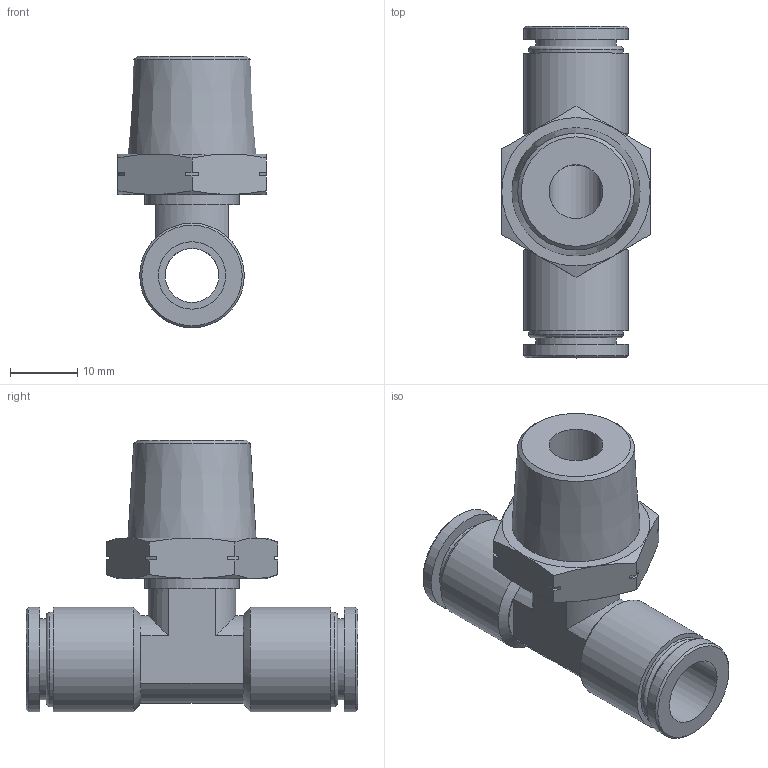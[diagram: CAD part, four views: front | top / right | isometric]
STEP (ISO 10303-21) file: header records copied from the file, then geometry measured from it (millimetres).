
FILE_DESCRIPTION(/* description */ (''),/* implementation_level */ '2;1');
FILE_NAME(/* name */ 'LXH31 0010 N4.stp',/* time_stamp */ '2025-09-16T13:07:16+02:00',/* author */ ('freju'),/* organization */ (''),/* preprocessor_version */ 'ST-DEVELOPER v20.1',/* originating_system */ 'Autodesk Inventor 2026',/* authorisation */ '');
FILE_SCHEMA (('AUTOMOTIVE_DESIGN { 1 0 10303 214 3 1 1 }'));
Length unit declared in the file: millimetre
Products named in the file (1): LXH31 0010 N4
Bounding box: 22 x 49.2 x 40.25 mm (x, y, z)
Volume: 10034.9 mm3; surface area: 7026.4 mm2
Topology: 1 solids, 1 shells, 86 faces, 199 edges, 125 vertices
Faces by surface type: plane 38, cylinder 28, cone 18, torus 2
Full cylindrical faces by diameter (mm): 8 x2, 10 x2, 12 x2, 14 x3, 15.5 x4
Entity records: 2469 total; most frequent: CARTESIAN_POINT 459, DIRECTION 432, ORIENTED_EDGE 398, EDGE_CURVE 199, AXIS2_PLACEMENT_3D 170, VERTEX_POINT 125, EDGE_LOOP 100, LINE 92
